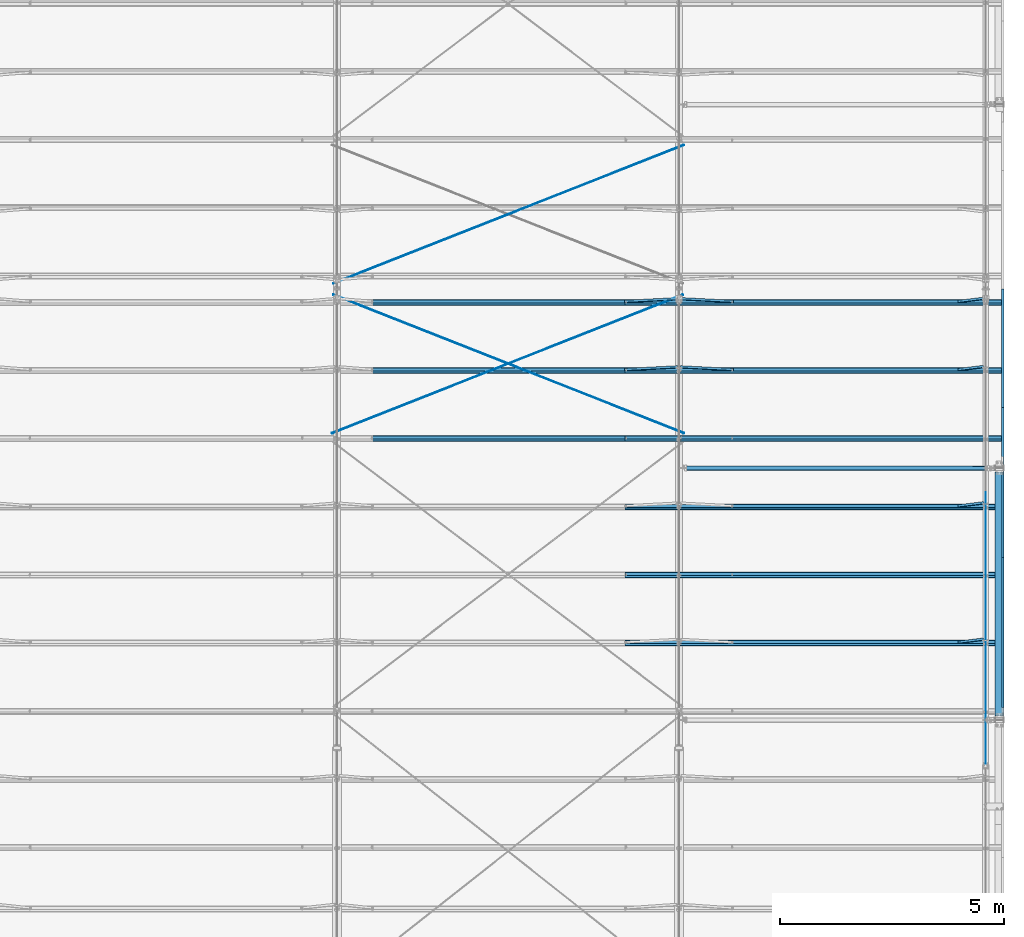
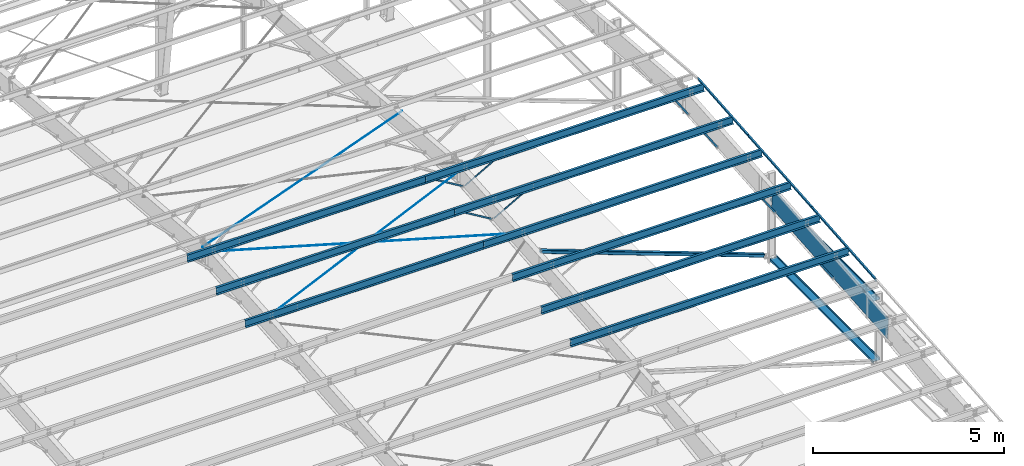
# One storey, part 18 of 185: 18 beams, 9 members, 27 elements without a shape of their own.
"""IFC2X3 building model written with IfcOpenShell, lengths in millimetres."""

from ifc_helpers import new_model, si_unit, frame, origin_with_axes, origin_2d_with_axis, place, context, subcontext, project, spatial, polyline, rectangle, hollow_rectangle, circle, outline, extrude, clip, halfspace, material, type_object, element, aggregate, save


model = new_model("IFC2X3")

# Units and contexts
model_context = context("Model", 3, precision=1e-05, world=origin_with_axes())
body_context = subcontext(model_context, "Body", "Model", "MODEL_VIEW")
ifc_project = project(units=[si_unit("LENGTHUNIT", "METRE", prefix="MILLI"), si_unit("AREAUNIT", "SQUARE_METRE"), si_unit("VOLUMEUNIT", "CUBIC_METRE"), si_unit("MASSUNIT", "GRAM", prefix="KILO"), si_unit("TIMEUNIT", "SECOND"), si_unit("PLANEANGLEUNIT", "RADIAN"), si_unit("SOLIDANGLEUNIT", "STERADIAN"), si_unit("THERMODYNAMICTEMPERATUREUNIT", "DEGREE_CELSIUS"), si_unit("LUMINOUSINTENSITYUNIT", "LUMEN")], contexts=[model_context])

# Site, building, storey
site_placement = place(None, origin_with_axes())
site = spatial("IfcSite", under=ifc_project, at=site_placement, Name="Undefined", CompositionType="ELEMENT")
building_placement = place(site_placement, origin_with_axes())
building = spatial("IfcBuilding", under=site, at=building_placement, Name="Undefined", CompositionType="ELEMENT")
storey_placement = place(building_placement, origin_with_axes())
storey = spatial("IfcBuildingStorey", under=building, at=storey_placement, Name="Undefined", CompositionType="ELEMENT", Elevation=0.0)

# Assembly, beam
assembly_1_placement = place(storey_placement, origin_with_axes())
assembly_1 = element("IfcElementAssembly", 1, at=assembly_1_placement, inside=storey, Name="Steel Assembly", AssemblyPlace="NOTDEFINED", PredefinedType="RIGID_FRAME")
ifc_material = material(Name="STEEL/55")
beam_type_1 = type_object("IfcBeamType", Name="8Z15", PredefinedType="NOTDEFINED")
beam_1_placement = place(assembly_1_placement, frame((30099.0, 12669.2192269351, 7049.81610362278), z_axis=(0.0, 0.0830454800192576, -0.996545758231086), x_axis=(1.0, 0.0, 0.0)))
beam_1 = element("IfcBeam", 2, at=beam_1_placement, type_object=beam_type_1, material=ifc_material, Name="Purlin", ObjectType="8Z15", context=body_context, shape_type="Clipping", body=[
    clip(clip(extrude(outline(polyline([(-75.75, 87.0100021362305), (-63.5, 101.599998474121), (1.5900000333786, 101.599998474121), (1.5900000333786, -98.4199981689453), (62.0200004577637, -98.4199981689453), (73.3099975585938, -84.9700012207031), (75.7399978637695, -87.0100021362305), (63.5, -101.599998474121), (-1.5900000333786, -101.599998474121), (-1.5900000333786, 98.4199981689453), (-62.0200004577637, 98.4199981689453), (-73.3099975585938, 84.9700012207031), (-75.75, 87.0100021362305)])), frame((8826.5, 0.0, 0.0), z_axis=(-1.0, 0.0, 0.0), x_axis=(0.0, -1.0, 0.0)), (0.0, 0.0, 1.0), 9626.6), halfspace(frame((8826.5, 2.91402102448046e-09, -101.600000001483), z_axis=(-1.0, 0.0, 0.0), x_axis=(0.0, 0.0, 1.0)), True)), halfspace(frame((-800.1, 2.91402102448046e-09, -101.600000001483), z_axis=(-1.0, 0.0, 0.0), x_axis=(0.0, 0.0, 1.0)), False)),
])
aggregate(assembly_1, [beam_1])

assembly_2_placement = place(storey_placement, origin_with_axes())
assembly_2 = element("IfcElementAssembly", 3, at=assembly_2_placement, inside=storey, Name="Steel Assembly", AssemblyPlace="NOTDEFINED", PredefinedType="RIGID_FRAME")
beam_2_placement = place(assembly_2_placement, frame((30099.0, 14187.9549624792, 7176.37741517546), z_axis=(0.0, 0.0830454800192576, -0.996545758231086), x_axis=(1.0, 0.0, 0.0)))
beam_2 = element("IfcBeam", 4, at=beam_2_placement, type_object=beam_type_1, material=ifc_material, Name="Purlin", ObjectType="8Z15", context=body_context, shape_type="Clipping", body=[
    clip(clip(extrude(outline(polyline([(-75.75, 87.0100021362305), (-63.5, 101.599998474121), (1.5900000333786, 101.599998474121), (1.5900000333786, -98.4199981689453), (62.0200004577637, -98.4199981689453), (73.3099975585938, -84.9700012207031), (75.7399978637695, -87.0100021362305), (63.5, -101.599998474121), (-1.5900000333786, -101.599998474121), (-1.5900000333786, 98.4199981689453), (-62.0200004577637, 98.4199981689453), (-73.3099975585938, 84.9700012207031), (-75.75, 87.0100021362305)])), frame((8826.5, 0.0, 0.0), z_axis=(-1.0, 0.0, 0.0), x_axis=(0.0, -1.0, 0.0)), (0.0, 0.0, 1.0), 9626.6), halfspace(frame((8826.5, 2.91402102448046e-09, -101.600000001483), z_axis=(-1.0, 0.0, 0.0), x_axis=(0.0, 0.0, 1.0)), True)), halfspace(frame((-800.1, 2.91402102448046e-09, -101.600000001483), z_axis=(-1.0, 0.0, 0.0), x_axis=(0.0, 0.0, 1.0)), False)),
])
aggregate(assembly_2, [beam_2])

assembly_3_placement = place(storey_placement, origin_with_axes())
assembly_3 = element("IfcElementAssembly", 5, at=assembly_3_placement, inside=storey, Name="Steel Assembly", AssemblyPlace="NOTDEFINED", PredefinedType="RIGID_FRAME")
beam_3_placement = place(assembly_3_placement, frame((30099.0, 15706.6906980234, 7302.93872672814), z_axis=(0.0, 0.0830454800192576, -0.996545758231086), x_axis=(1.0, 0.0, 0.0)))
beam_3 = element("IfcBeam", 6, at=beam_3_placement, type_object=beam_type_1, material=ifc_material, Name="Purlin", ObjectType="8Z15", context=body_context, shape_type="Clipping", body=[
    clip(clip(extrude(outline(polyline([(-75.75, 87.0100021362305), (-63.5, 101.599998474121), (1.5900000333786, 101.599998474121), (1.5900000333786, -98.4199981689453), (62.0200004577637, -98.4199981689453), (73.3099975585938, -84.9700012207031), (75.7399978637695, -87.0100021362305), (63.5, -101.599998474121), (-1.5900000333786, -101.599998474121), (-1.5900000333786, 98.4199981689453), (-62.0200004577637, 98.4199981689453), (-73.3099975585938, 84.9700012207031), (-75.75, 87.0100021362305)])), frame((8826.5, 0.0, 0.0), z_axis=(-1.0, 0.0, 0.0), x_axis=(0.0, -1.0, 0.0)), (0.0, 0.0, 1.0), 9626.6), halfspace(frame((8826.5, 2.91402102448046e-09, -101.600000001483), z_axis=(-1.0, 0.0, 0.0), x_axis=(0.0, 0.0, 1.0)), True)), halfspace(frame((-800.1, 2.91402102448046e-09, -101.600000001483), z_axis=(-1.0, 0.0, 0.0), x_axis=(0.0, 0.0, 1.0)), False)),
])
aggregate(assembly_3, [beam_3])

assembly_4_placement = place(storey_placement, origin_with_axes())
assembly_4 = element("IfcElementAssembly", 7, at=assembly_4_placement, inside=storey, Name="Steel Assembly", AssemblyPlace="NOTDEFINED", PredefinedType="RIGID_FRAME")
beam_4_placement = place(assembly_4_placement, frame((44856.4, 6400.7998046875, 4165.6), z_axis=(-1.0, 0.0, 0.0), x_axis=(0.0, 1.0, 0.0)))
beam_4 = element("IfcBeam", 8, at=beam_4_placement, type_object=beam_type_1, material=ifc_material, Name="Girt", ObjectType="8Z15", context=body_context, shape_type="Clipping", body=[
    clip(clip(extrude(outline(polyline([(-75.75, 87.0100021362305), (-63.5, 101.599998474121), (1.5900000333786, 101.599998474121), (1.5900000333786, -98.4199981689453), (62.0200004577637, -98.4199981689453), (73.3099975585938, -84.9700012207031), (75.7399978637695, -87.0100021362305), (63.5, -101.599998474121), (-1.5900000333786, -101.599998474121), (-1.5900000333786, 98.4199981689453), (-62.0200004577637, 98.4199981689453), (-73.3099975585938, 84.9700012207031), (-75.75, 87.0100021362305)])), frame((6400.7998046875, 0.0, 0.0), z_axis=(-1.0, 0.0, 0.0), x_axis=(0.0, -1.0, 0.0)), (0.0, 0.0, 1.0), 6400.8), halfspace(frame((5524.50019531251, -74.5286799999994, -101.599999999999), z_axis=(1.0, 0.0, 0.0), x_axis=(0.0, 0.0, 1.0)), False)), halfspace(frame((88.9001953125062, 74.5286799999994, -101.599999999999), z_axis=(-1.0, 0.0, 0.0), x_axis=(0.0, 0.0, 1.0)), False)),
])
aggregate(assembly_4, [beam_4])

# Assembly, member
assembly_5_placement = place(storey_placement, origin_with_axes())
assembly_5 = element("IfcElementAssembly", 9, at=assembly_5_placement, inside=storey, Name="Steel Assembly", AssemblyPlace="NOTDEFINED", PredefinedType="RIGID_FRAME")
member_type_1 = type_object("IfcMemberType", Name="HSS4X4X1/4", PredefinedType="NOTDEFINED")
member_1_placement = place(assembly_5_placement, frame((44609.1015982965, 12011.046302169, 4286.17118956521), z_axis=(0.345843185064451, -0.000137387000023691, 0.938292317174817), x_axis=(-0.938292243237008, 0.000372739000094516, 0.345843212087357)))
member_1 = element("IfcMember", 10, at=member_1_placement, type_object=member_type_1, material=ifc_material, Name="PIPE", ObjectType="HSS4X4X1/4", context=body_context, shape_type="SweptSolid", body=[
    extrude(hollow_rectangle(XDim=101.6, YDim=101.6, WallThickness=6.35, InnerFilletRadius=6.3499, OuterFilletRadius=12.6999, at=origin_2d_with_axis()), frame((7182.66862782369, 1.81903232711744e-12, 0.0), z_axis=(-1.0, 0.0, 0.0), x_axis=(0.0, -1.0, 0.0)), (0.0, 0.0, 1.0), 7182.7),
])
aggregate(assembly_5, [member_1])

# Assembly, beam
assembly_6_placement = place(storey_placement, origin_with_axes())
assembly_6 = element("IfcElementAssembly", 11, at=assembly_6_placement, inside=storey, Name="Steel Assembly", AssemblyPlace="NOTDEFINED", PredefinedType="RIGID_FRAME")
beam_type_2 = type_object("IfcBeamType", Name="8Z16", PredefinedType="NOTDEFINED")
beam_5_placement = place(assembly_6_placement, frame((44856.4, 6400.7998046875, 6096.0), z_axis=(-1.0, 0.0, 0.0), x_axis=(0.0, 1.0, 0.0)))
beam_5 = element("IfcBeam", 12, at=beam_5_placement, type_object=beam_type_2, material=ifc_material, Name="Girt", ObjectType="8Z16", context=body_context, shape_type="Clipping", body=[
    clip(clip(extrude(outline(polyline([(73.3099975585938, -84.9700012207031), (75.7399978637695, -87.0100021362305), (63.5, -101.599998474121), (-1.5900000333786, -101.599998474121), (-1.5900000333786, 98.4199981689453), (-62.0200004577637, 98.4199981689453), (-73.3099975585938, 84.9700012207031), (-75.75, 87.0100021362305), (-63.5, 101.599998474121), (1.5900000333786, 101.599998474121), (1.5900000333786, -98.4199981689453), (62.0200004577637, -98.4199981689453), (73.3099975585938, -84.9700012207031)])), frame((6400.7998046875, 0.0, 0.0), z_axis=(-1.0, 0.0, 0.0), x_axis=(0.0, -1.0, 0.0)), (0.0, 0.0, 1.0), 6400.8), halfspace(frame((5524.50019531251, -74.5286799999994, -101.599999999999), z_axis=(1.0, 0.0, 0.0), x_axis=(0.0, 0.0, 1.0)), False)), halfspace(frame((88.9001953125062, 74.5286799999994, -101.599999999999), z_axis=(-1.0, 0.0, 0.0), x_axis=(0.0, 0.0, 1.0)), False)),
])
aggregate(assembly_6, [beam_5])

# Assembly, member
assembly_7_placement = place(storey_placement, origin_with_axes())
assembly_7 = element("IfcElementAssembly", 13, at=assembly_7_placement, inside=storey, Name="Steel Assembly", AssemblyPlace="NOTDEFINED", PredefinedType="RIGID_FRAME")
member_type_2 = type_object("IfcMemberType", Name="FB-", PredefinedType="NOTDEFINED")
member_2_placement = place(assembly_7_placement, frame((37680.9126795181, 15764.30996008, 6611.50758167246), z_axis=(0.530152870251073, -0.070414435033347, 0.844973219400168), x_axis=(-0.847902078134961, -0.0440268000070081, 0.528321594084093)))
member_2 = element("IfcMember", 14, at=member_2_placement, type_object=member_type_2, material=ifc_material, Name="2X2 FLANGE BRACE X 48", ObjectType="FB-", context=body_context, shape_type="SweptSolid", body=[
    extrude(outline(polyline([(1.5900000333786, 1.59000003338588), (50.7999992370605, 1.59000003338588), (50.7999992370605, 7.27595761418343e-12), (0.0, 0.0), (0.0, 50.7999992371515), (1.5900000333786, 50.7999992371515), (1.5900000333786, 1.59000003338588)])), frame((1389.32938756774, -1.81898940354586e-12, 7.71232737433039e-14), z_axis=(-1.0, 0.0, 0.0), x_axis=(0.0, -1.0, 0.0)), (0.0, 0.0, 1.0), 1389.3),
])
aggregate(assembly_7, [member_2])

assembly_8_placement = place(storey_placement, origin_with_axes())
assembly_8 = element("IfcElementAssembly", 15, at=assembly_8_placement, inside=storey, Name="Steel Assembly", AssemblyPlace="NOTDEFINED", PredefinedType="RIGID_FRAME")
member_3_placement = place(assembly_8_placement, frame((37680.9126795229, 14245.5742245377, 6484.94627033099), z_axis=(0.530152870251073, -0.070414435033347, 0.844973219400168), x_axis=(-0.847902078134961, -0.0440268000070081, 0.528321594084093)))
member_3 = element("IfcMember", 16, at=member_3_placement, type_object=member_type_2, material=ifc_material, Name="2X2 FLANGE BRACE X 48", ObjectType="FB-", context=body_context, shape_type="SweptSolid", body=[
    extrude(outline(polyline([(1.5900000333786, 1.59000003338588), (50.7999992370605, 1.59000003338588), (50.7999992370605, 7.27595761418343e-12), (0.0, 0.0), (0.0, 50.7999992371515), (1.5900000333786, 50.7999992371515), (1.5900000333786, 1.59000003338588)])), frame((1389.32938756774, -1.81898940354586e-12, 7.71232737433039e-14), z_axis=(-1.0, 0.0, 0.0), x_axis=(0.0, -1.0, 0.0)), (0.0, 0.0, 1.0), 1389.3),
])
aggregate(assembly_8, [member_3])

assembly_9_placement = place(storey_placement, origin_with_axes())
assembly_9 = element("IfcElementAssembly", 17, at=assembly_9_placement, inside=storey, Name="Steel Assembly", AssemblyPlace="NOTDEFINED", PredefinedType="RIGID_FRAME")
member_4_placement = place(assembly_9_placement, frame((44498.3456661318, 15772.6319752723, 6511.64339953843), z_axis=(0.832860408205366, -0.0459642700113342, 0.551571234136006), x_axis=(-0.553483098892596, -0.0691652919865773, 0.829983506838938)))
member_4 = element("IfcMember", 18, at=member_4_placement, type_object=member_type_2, material=ifc_material, Name="2X2 FLANGE BRACE X 48", ObjectType="FB-", context=body_context, shape_type="SweptSolid", body=[
    extrude(outline(polyline([(1.5900000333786, 1.59000003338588), (50.7999992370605, 1.59000003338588), (50.7999992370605, 7.27595761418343e-12), (0.0, 0.0), (0.0, 50.7999992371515), (1.5900000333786, 50.7999992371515), (1.5900000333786, 1.59000003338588)])), frame((1022.90167929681, -5.11529800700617e-13, 1.83318501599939e-12), z_axis=(-1.0, 0.0, 0.0), x_axis=(0.0, -1.0, 0.0)), (0.0, 0.0, 1.0), 1022.9),
])
aggregate(assembly_9, [member_4])

assembly_10_placement = place(storey_placement, origin_with_axes())
assembly_10 = element("IfcElementAssembly", 19, at=assembly_10_placement, inside=storey, Name="Steel Assembly", AssemblyPlace="NOTDEFINED", PredefinedType="RIGID_FRAME")
member_5_placement = place(assembly_10_placement, frame((44498.3456661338, 14253.8962397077, 6385.08208823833), z_axis=(0.832860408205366, -0.0459642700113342, 0.551571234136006), x_axis=(-0.553483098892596, -0.0691652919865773, 0.829983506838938)))
member_5 = element("IfcMember", 20, at=member_5_placement, type_object=member_type_2, material=ifc_material, Name="2X2 FLANGE BRACE X 48", ObjectType="FB-", context=body_context, shape_type="SweptSolid", body=[
    extrude(outline(polyline([(1.5900000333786, 1.59000003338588), (50.7999992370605, 1.59000003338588), (50.7999992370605, 7.27595761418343e-12), (0.0, 0.0), (0.0, 50.7999992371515), (1.5900000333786, 50.7999992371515), (1.5900000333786, 1.59000003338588)])), frame((1022.90167929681, -5.11529800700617e-13, 1.83318501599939e-12), z_axis=(-1.0, 0.0, 0.0), x_axis=(0.0, -1.0, 0.0)), (0.0, 0.0, 1.0), 1022.9),
])
aggregate(assembly_10, [member_5])

assembly_11_placement = place(storey_placement, origin_with_axes())
assembly_11 = element("IfcElementAssembly", 21, at=assembly_11_placement, inside=storey, Name="Steel Assembly", AssemblyPlace="NOTDEFINED", PredefinedType="RIGID_FRAME")
member_6_placement = place(assembly_11_placement, frame((44498.3456661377, 11216.4247685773, 6131.95946563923), z_axis=(0.832860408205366, -0.0459642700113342, 0.551571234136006), x_axis=(-0.553483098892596, -0.0691652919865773, 0.829983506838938)))
member_6 = element("IfcMember", 22, at=member_6_placement, type_object=member_type_2, material=ifc_material, Name="2X2 FLANGE BRACE X 48", ObjectType="FB-", context=body_context, shape_type="SweptSolid", body=[
    extrude(outline(polyline([(1.5900000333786, 1.59000003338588), (50.7999992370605, 1.59000003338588), (50.7999992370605, 7.27595761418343e-12), (0.0, 0.0), (0.0, 50.7999992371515), (1.5900000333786, 50.7999992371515), (1.5900000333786, 1.59000003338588)])), frame((1022.90167929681, -5.11529800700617e-13, 1.83318501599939e-12), z_axis=(-1.0, 0.0, 0.0), x_axis=(0.0, -1.0, 0.0)), (0.0, 0.0, 1.0), 1022.9),
])
aggregate(assembly_11, [member_6])

assembly_12_placement = place(storey_placement, origin_with_axes())
assembly_12 = element("IfcElementAssembly", 23, at=assembly_12_placement, inside=storey, Name="Steel Assembly", AssemblyPlace="NOTDEFINED", PredefinedType="RIGID_FRAME")
member_7_placement = place(assembly_12_placement, frame((44498.3456661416, 8178.95329744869, 5878.83684303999), z_axis=(0.832860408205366, -0.0459642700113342, 0.551571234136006), x_axis=(-0.553483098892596, -0.0691652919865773, 0.829983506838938)))
member_7 = element("IfcMember", 24, at=member_7_placement, type_object=member_type_2, material=ifc_material, Name="2X2 FLANGE BRACE X 48", ObjectType="FB-", context=body_context, shape_type="SweptSolid", body=[
    extrude(outline(polyline([(1.5900000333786, 1.59000003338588), (50.7999992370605, 1.59000003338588), (50.7999992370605, 7.27595761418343e-12), (0.0, 0.0), (0.0, 50.7999992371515), (1.5900000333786, 50.7999992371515), (1.5900000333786, 1.59000003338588)])), frame((1022.90167929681, -5.11529800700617e-13, 1.83318501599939e-12), z_axis=(-1.0, 0.0, 0.0), x_axis=(0.0, -1.0, 0.0)), (0.0, 0.0, 1.0), 1022.9),
])
aggregate(assembly_12, [member_7])

assembly_13_placement = place(storey_placement, origin_with_axes())
assembly_13 = element("IfcElementAssembly", 25, at=assembly_13_placement, inside=storey, Name="Steel Assembly", AssemblyPlace="NOTDEFINED", PredefinedType="RIGID_FRAME")
member_8_placement = place(assembly_13_placement, frame((37757.0873204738, 15764.3099601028, 6611.50758165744), z_axis=(0.0, 0.996545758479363, 0.0830454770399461), x_axis=(0.847902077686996, -0.044026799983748, 0.528321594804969)))
member_8 = element("IfcMember", 26, at=member_8_placement, type_object=member_type_2, material=ifc_material, Name="2X2 FLANGE BRACE X 48", ObjectType="FB-", context=body_context, shape_type="SweptSolid", body=[
    extrude(outline(polyline([(1.5900000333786, 1.59000003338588), (50.7999992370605, 1.59000003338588), (50.7999992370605, 7.27595761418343e-12), (0.0, 0.0), (0.0, 50.7999992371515), (1.5900000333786, 50.7999992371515), (1.5900000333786, 1.59000003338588)])), frame((1389.32938756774, -1.81898940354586e-12, 7.71232737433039e-14), z_axis=(-1.0, 0.0, 0.0), x_axis=(0.0, -1.0, 0.0)), (0.0, 0.0, 1.0), 1389.3),
])
aggregate(assembly_13, [member_8])

assembly_14_placement = place(storey_placement, origin_with_axes())
assembly_14 = element("IfcElementAssembly", 27, at=assembly_14_placement, inside=storey, Name="Steel Assembly", AssemblyPlace="NOTDEFINED", PredefinedType="RIGID_FRAME")
member_9_placement = place(assembly_14_placement, frame((37757.0873204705, 14245.5742245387, 6484.94627035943), z_axis=(0.0, 0.996545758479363, 0.0830454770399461), x_axis=(0.847902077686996, -0.044026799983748, 0.528321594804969)))
member_9 = element("IfcMember", 28, at=member_9_placement, type_object=member_type_2, material=ifc_material, Name="2X2 FLANGE BRACE X 48", ObjectType="FB-", context=body_context, shape_type="SweptSolid", body=[
    extrude(outline(polyline([(1.5900000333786, 1.59000003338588), (50.7999992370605, 1.59000003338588), (50.7999992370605, 7.27595761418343e-12), (0.0, 0.0), (0.0, 50.7999992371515), (1.5900000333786, 50.7999992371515), (1.5900000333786, 1.59000003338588)])), frame((1389.32938756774, -1.81898940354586e-12, 7.71232737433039e-14), z_axis=(-1.0, 0.0, 0.0), x_axis=(0.0, -1.0, 0.0)), (0.0, 0.0, 1.0), 1389.3),
])
aggregate(assembly_14, [member_9])

# Assembly, beam
assembly_15_placement = place(storey_placement, origin_with_axes())
assembly_15 = element("IfcElementAssembly", 29, at=assembly_15_placement, inside=storey, Name="Steel Assembly", AssemblyPlace="NOTDEFINED", PredefinedType="RIGID_FRAME")
beam_type_3 = type_object("IfcBeamType", Name="RA-1", PredefinedType="NOTDEFINED")
beam_6_placement = place(assembly_15_placement, frame((44958.0, 13364.912868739, 7209.27885903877), z_axis=(0.0, 0.0830701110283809, -0.99654370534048), x_axis=(0.0, 0.99654370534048, 0.0830701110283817)))
beam_6 = element("IfcBeam", 30, at=beam_6_placement, type_object=beam_type_3, material=ifc_material, Name="STANDARD RAKE ANGLE", ObjectType="RA-1", context=body_context, shape_type="SweptSolid", body=[
    extrude(outline(polyline([(0.0, 0.0), (50.7999992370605, 7.27595761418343e-12), (50.7999992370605, -1.51999998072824), (-1.51999998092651, -1.51999998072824), (-1.51999998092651, 127.000000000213), (0.0, 127.000000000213), (0.0, 0.0)])), frame((2646.26680182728, 0.0, 0.0), z_axis=(-1.0, 0.0, 0.0), x_axis=(0.0, -1.0, 0.0)), (0.0, 0.0, 1.0), 2646.3),
])
aggregate(assembly_15, [beam_6])

assembly_16_placement = place(storey_placement, origin_with_axes())
assembly_16 = element("IfcElementAssembly", 31, at=assembly_16_placement, inside=storey, Name="Steel Assembly", AssemblyPlace="NOTDEFINED", PredefinedType="RIGID_FRAME")
beam_7_placement = place(assembly_16_placement, frame((44958.0, 10023.7011333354, 6930.76139243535), z_axis=(0.0, 0.0830701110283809, -0.99654370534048), x_axis=(0.0, 0.99654370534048, 0.0830701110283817)))
beam_7 = element("IfcBeam", 32, at=beam_7_placement, type_object=beam_type_3, material=ifc_material, Name="STANDARD RAKE ANGLE", ObjectType="RA-1", context=body_context, shape_type="SweptSolid", body=[
    extrude(outline(polyline([(0.0, 0.0), (50.7999992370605, 7.27595761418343e-12), (50.7999992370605, -1.51999998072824), (-1.51999998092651, -1.51999998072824), (-1.51999998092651, 127.000000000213), (0.0, 127.000000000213), (0.0, 0.0)])), frame((3352.80000002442, 0.0, -1.86551885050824e-12), z_axis=(-1.0, 0.0, 0.0), x_axis=(0.0, -1.0, 0.0)), (0.0, 0.0, 1.0), 3352.8),
])
aggregate(assembly_16, [beam_7])

assembly_17_placement = place(storey_placement, origin_with_axes())
assembly_17 = element("IfcElementAssembly", 33, at=assembly_17_placement, inside=storey, Name="Steel Assembly", AssemblyPlace="NOTDEFINED", PredefinedType="RIGID_FRAME")
beam_8_placement = place(assembly_17_placement, frame((44958.0, 6682.48939793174, 6652.24392583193), z_axis=(0.0, 0.0830701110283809, -0.99654370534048), x_axis=(0.0, 0.99654370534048, 0.0830701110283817)))
beam_8 = element("IfcBeam", 34, at=beam_8_placement, type_object=beam_type_3, material=ifc_material, Name="STANDARD RAKE ANGLE", ObjectType="RA-1", context=body_context, shape_type="SweptSolid", body=[
    extrude(outline(polyline([(0.0, 0.0), (50.7999992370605, 7.27595761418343e-12), (50.7999992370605, -1.51999998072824), (-1.51999998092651, -1.51999998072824), (-1.51999998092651, 127.000000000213), (0.0, 127.000000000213), (0.0, 0.0)])), frame((3352.80000002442, 0.0, -1.86551885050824e-12), z_axis=(-1.0, 0.0, 0.0), x_axis=(0.0, -1.0, 0.0)), (0.0, 0.0, 1.0), 3352.8),
])
aggregate(assembly_17, [beam_8])

assembly_18_placement = place(storey_placement, origin_with_axes())
assembly_18 = element("IfcElementAssembly", 35, at=assembly_18_placement, inside=storey, Name="Steel Assembly", AssemblyPlace="NOTDEFINED", PredefinedType="RIGID_FRAME")
beam_type_4 = type_object("IfcBeamType", Name="RB3/4\"", PredefinedType="NOTDEFINED")
beam_9_placement = place(assembly_18_placement, frame((37829.6980639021, 19213.282930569, 6899.03491774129), z_axis=(0.0157150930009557, 0.0434242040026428, 0.998933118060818), x_axis=(-0.929747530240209, -0.366925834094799, 0.0305771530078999)))
beam_9 = element("IfcBeam", 36, at=beam_9_placement, type_object=beam_type_4, material=ifc_material, Name="ROD BRACE - 3/4", ObjectType="RB3/4\"", context=body_context, shape_type="SweptSolid", body=[
    extrude(circle(Radius=9.525, at=origin_2d_with_axis()), frame((8406.91081267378, 5.39498763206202e-12, -9.09494701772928e-13), z_axis=(-1.0, 0.0, 0.0), x_axis=(0.0, -1.0, 0.0)), (0.0, 0.0, 1.0), 8406.9),
])
aggregate(assembly_18, [beam_9])

assembly_19_placement = place(storey_placement, origin_with_axes())
assembly_19 = element("IfcElementAssembly", 37, at=assembly_19_placement, inside=storey, Name="Steel Assembly", AssemblyPlace="NOTDEFINED", PredefinedType="RIGID_FRAME")
beam_10_placement = place(assembly_19_placement, frame((29988.3021082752, 12790.6821353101, 6899.03200658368), z_axis=(-0.0158745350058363, -0.0430218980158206, 0.998948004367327), x_axis=(0.929746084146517, 0.366929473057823, 0.0305774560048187)))
beam_10 = element("IfcBeam", 38, at=beam_10_placement, type_object=beam_type_4, material=ifc_material, Name="ROD BRACE - 3/4", ObjectType="RB3/4\"", context=body_context, shape_type="SweptSolid", body=[
    extrude(circle(Radius=9.525, at=origin_2d_with_axis()), frame((8406.92355992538, -2.11149322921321e-12, 5.83347506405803e-14), z_axis=(-1.0, 0.0, 0.0), x_axis=(0.0, -1.0, 0.0)), (0.0, 0.0, 1.0), 8406.9),
])
aggregate(assembly_19, [beam_10])

assembly_20_placement = place(storey_placement, origin_with_axes())
assembly_20 = element("IfcElementAssembly", 39, at=assembly_20_placement, inside=storey, Name="Steel Assembly", AssemblyPlace="NOTDEFINED", PredefinedType="RIGID_FRAME")
beam_11_placement = place(assembly_20_placement, frame((37829.6978917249, 12790.6821353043, 6899.03200659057), z_axis=(0.0157150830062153, -0.0434246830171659, 0.998933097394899), x_axis=(-0.929746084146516, 0.366929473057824, 0.0305774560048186)))
beam_11 = element("IfcBeam", 40, at=beam_11_placement, type_object=beam_type_4, material=ifc_material, Name="ROD BRACE - 3/4", ObjectType="RB3/4\"", context=body_context, shape_type="SweptSolid", body=[
    extrude(circle(Radius=9.525, at=origin_2d_with_axis()), frame((8406.92355992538, -2.11149322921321e-12, 5.83347506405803e-14), z_axis=(-1.0, 0.0, 0.0), x_axis=(0.0, -1.0, 0.0)), (0.0, 0.0, 1.0), 8406.9),
])
aggregate(assembly_20, [beam_11])

assembly_21_placement = place(storey_placement, origin_with_axes())
assembly_21 = element("IfcElementAssembly", 41, at=assembly_21_placement, inside=storey, Name="Steel Assembly", AssemblyPlace="NOTDEFINED", PredefinedType="RIGID_FRAME")
beam_type_5 = type_object("IfcBeamType", Name="8Z13", PredefinedType="NOTDEFINED")
beam_12_placement = place(assembly_21_placement, frame((37719.0, 8113.01202030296, 6670.13216896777), z_axis=(0.0, 0.0830454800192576, -0.996545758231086), x_axis=(1.0, 0.0, 0.0)))
beam_12 = element("IfcBeam", 42, at=beam_12_placement, type_object=beam_type_5, material=ifc_material, Name="Purlin", ObjectType="8Z13", context=body_context, shape_type="Clipping", body=[
    clip(clip(extrude(outline(polyline([(-62.0200004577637, 98.4199981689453), (-73.3099975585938, 84.9700012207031), (-75.75, 87.0100021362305), (-63.5, 101.599998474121), (1.5900000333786, 101.599998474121), (1.5900000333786, -98.4199981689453), (62.0200004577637, -98.4199981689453), (73.3099975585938, -84.9700012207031), (75.7399978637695, -87.0100021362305), (63.5, -101.599998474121), (-1.5900000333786, -101.599998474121), (-1.5900000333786, 98.4199981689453), (-62.0200004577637, 98.4199981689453)])), frame((7226.3, 0.0, 0.0), z_axis=(-1.0, 0.0, 0.0), x_axis=(0.0, -1.0, 0.0)), (0.0, 0.0, 1.0), 8432.8), halfspace(frame((7226.3, 2.91402102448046e-09, -101.600000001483), z_axis=(-1.0, 0.0, 0.0), x_axis=(0.0, 0.0, -1.0)), True)), halfspace(frame((-1206.5, 2.91402102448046e-09, -101.600000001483), z_axis=(-1.0, 0.0, 0.0), x_axis=(0.0, 0.0, 1.0)), False)),
])
aggregate(assembly_21, [beam_12])

assembly_22_placement = place(storey_placement, origin_with_axes())
assembly_22 = element("IfcElementAssembly", 43, at=assembly_22_placement, inside=storey, Name="Steel Assembly", AssemblyPlace="NOTDEFINED", PredefinedType="RIGID_FRAME")
beam_13_placement = place(assembly_22_placement, frame((37719.0, 9631.74775584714, 6796.69348052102), z_axis=(0.0, 0.0830454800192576, -0.996545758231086), x_axis=(1.0, 0.0, 0.0)))
beam_13 = element("IfcBeam", 44, at=beam_13_placement, type_object=beam_type_5, material=ifc_material, Name="Purlin", ObjectType="8Z13", context=body_context, shape_type="Clipping", body=[
    clip(clip(extrude(outline(polyline([(-62.0200004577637, 98.4199981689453), (-73.3099975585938, 84.9700012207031), (-75.75, 87.0100021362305), (-63.5, 101.599998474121), (1.5900000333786, 101.599998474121), (1.5900000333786, -98.4199981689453), (62.0200004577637, -98.4199981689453), (73.3099975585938, -84.9700012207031), (75.7399978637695, -87.0100021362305), (63.5, -101.599998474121), (-1.5900000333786, -101.599998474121), (-1.5900000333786, 98.4199981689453), (-62.0200004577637, 98.4199981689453)])), frame((7226.3, 0.0, 0.0), z_axis=(-1.0, 0.0, 0.0), x_axis=(0.0, -1.0, 0.0)), (0.0, 0.0, 1.0), 8432.8), halfspace(frame((7226.3, 2.91402102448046e-09, -101.600000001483), z_axis=(-1.0, 0.0, 0.0), x_axis=(0.0, 0.0, -1.0)), True)), halfspace(frame((-1206.5, 2.91402102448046e-09, -101.600000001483), z_axis=(-1.0, 0.0, 0.0), x_axis=(0.0, 0.0, 1.0)), False)),
])
aggregate(assembly_22, [beam_13])

assembly_23_placement = place(storey_placement, origin_with_axes())
assembly_23 = element("IfcElementAssembly", 45, at=assembly_23_placement, inside=storey, Name="Steel Assembly", AssemblyPlace="NOTDEFINED", PredefinedType="RIGID_FRAME")
beam_14_placement = place(assembly_23_placement, frame((37719.0, 11150.4834913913, 6923.25479207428), z_axis=(0.0, 0.0830454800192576, -0.996545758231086), x_axis=(1.0, 0.0, 0.0)))
beam_14 = element("IfcBeam", 46, at=beam_14_placement, type_object=beam_type_5, material=ifc_material, Name="Purlin", ObjectType="8Z13", context=body_context, shape_type="Clipping", body=[
    clip(clip(extrude(outline(polyline([(-62.0200004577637, 98.4199981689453), (-73.3099975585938, 84.9700012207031), (-75.75, 87.0100021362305), (-63.5, 101.599998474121), (1.5900000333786, 101.599998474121), (1.5900000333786, -98.4199981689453), (62.0200004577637, -98.4199981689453), (73.3099975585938, -84.9700012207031), (75.7399978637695, -87.0100021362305), (63.5, -101.599998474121), (-1.5900000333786, -101.599998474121), (-1.5900000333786, 98.4199981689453), (-62.0200004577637, 98.4199981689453)])), frame((7226.3, 0.0, 0.0), z_axis=(-1.0, 0.0, 0.0), x_axis=(0.0, -1.0, 0.0)), (0.0, 0.0, 1.0), 8432.8), halfspace(frame((7226.3, 2.91402102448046e-09, -101.600000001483), z_axis=(-1.0, 0.0, 0.0), x_axis=(0.0, 0.0, -1.0)), True)), halfspace(frame((-1206.5, 2.91402102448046e-09, -101.600000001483), z_axis=(-1.0, 0.0, 0.0), x_axis=(0.0, 0.0, 1.0)), False)),
])
aggregate(assembly_23, [beam_14])

assembly_24_placement = place(storey_placement, origin_with_axes())
assembly_24 = element("IfcElementAssembly", 47, at=assembly_24_placement, inside=storey, Name="Steel Assembly", AssemblyPlace="NOTDEFINED", PredefinedType="RIGID_FRAME")
beam_15_placement = place(assembly_24_placement, frame((37719.0, 12669.2192269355, 7049.81610362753), z_axis=(0.0, 0.0830454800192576, -0.996545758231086), x_axis=(1.0, 0.0, 0.0)))
beam_15 = element("IfcBeam", 48, at=beam_15_placement, type_object=beam_type_5, material=ifc_material, Name="Purlin", ObjectType="8Z13", context=body_context, shape_type="Clipping", body=[
    clip(clip(extrude(outline(polyline([(-62.0200004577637, 98.4199981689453), (-73.3099975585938, 84.9700012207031), (-75.75, 87.0100021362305), (-63.5, 101.599998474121), (1.5900000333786, 101.599998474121), (1.5900000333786, -98.4199981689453), (62.0200004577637, -98.4199981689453), (73.3099975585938, -84.9700012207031), (75.7399978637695, -87.0100021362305), (63.5, -101.599998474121), (-1.5900000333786, -101.599998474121), (-1.5900000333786, 98.4199981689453), (-62.0200004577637, 98.4199981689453)])), frame((7226.3, 0.0, 0.0), z_axis=(-1.0, 0.0, 0.0), x_axis=(0.0, -1.0, 0.0)), (0.0, 0.0, 1.0), 8432.8), halfspace(frame((7226.3, 2.91402102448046e-09, -101.600000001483), z_axis=(-1.0, 0.0, 0.0), x_axis=(0.0, 0.0, -1.0)), True)), halfspace(frame((-1206.5, 2.91402102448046e-09, -101.600000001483), z_axis=(-1.0, 0.0, 0.0), x_axis=(0.0, 0.0, 1.0)), False)),
])
aggregate(assembly_24, [beam_15])

assembly_25_placement = place(storey_placement, origin_with_axes())
assembly_25 = element("IfcElementAssembly", 49, at=assembly_25_placement, inside=storey, Name="Steel Assembly", AssemblyPlace="NOTDEFINED", PredefinedType="RIGID_FRAME")
beam_16_placement = place(assembly_25_placement, frame((37719.0, 14187.9549624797, 7176.37741518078), z_axis=(0.0, 0.0830454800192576, -0.996545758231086), x_axis=(1.0, 0.0, 0.0)))
beam_16 = element("IfcBeam", 50, at=beam_16_placement, type_object=beam_type_5, material=ifc_material, Name="Purlin", ObjectType="8Z13", context=body_context, shape_type="Clipping", body=[
    clip(clip(extrude(outline(polyline([(-62.0200004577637, 98.4199981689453), (-73.3099975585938, 84.9700012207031), (-75.75, 87.0100021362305), (-63.5, 101.599998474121), (1.5900000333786, 101.599998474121), (1.5900000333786, -98.4199981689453), (62.0200004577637, -98.4199981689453), (73.3099975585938, -84.9700012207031), (75.7399978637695, -87.0100021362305), (63.5, -101.599998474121), (-1.5900000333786, -101.599998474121), (-1.5900000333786, 98.4199981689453), (-62.0200004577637, 98.4199981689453)])), frame((7226.3, 0.0, 0.0), z_axis=(-1.0, 0.0, 0.0), x_axis=(0.0, -1.0, 0.0)), (0.0, 0.0, 1.0), 8432.8), halfspace(frame((7226.3, 2.91402102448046e-09, -101.600000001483), z_axis=(-1.0, 0.0, 0.0), x_axis=(0.0, 0.0, -1.0)), True)), halfspace(frame((-1206.5, 2.91402102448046e-09, -101.600000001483), z_axis=(-1.0, 0.0, 0.0), x_axis=(0.0, 0.0, 1.0)), False)),
])
aggregate(assembly_25, [beam_16])

assembly_26_placement = place(storey_placement, origin_with_axes())
assembly_26 = element("IfcElementAssembly", 51, at=assembly_26_placement, inside=storey, Name="Steel Assembly", AssemblyPlace="NOTDEFINED", PredefinedType="RIGID_FRAME")
beam_17_placement = place(assembly_26_placement, frame((37719.0, 15706.6906980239, 7302.93872673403), z_axis=(0.0, 0.0830454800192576, -0.996545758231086), x_axis=(1.0, 0.0, 0.0)))
beam_17 = element("IfcBeam", 52, at=beam_17_placement, type_object=beam_type_5, material=ifc_material, Name="Purlin", ObjectType="8Z13", context=body_context, shape_type="Clipping", body=[
    clip(clip(extrude(outline(polyline([(-62.0200004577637, 98.4199981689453), (-73.3099975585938, 84.9700012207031), (-75.75, 87.0100021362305), (-63.5, 101.599998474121), (1.5900000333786, 101.599998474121), (1.5900000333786, -98.4199981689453), (62.0200004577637, -98.4199981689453), (73.3099975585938, -84.9700012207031), (75.7399978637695, -87.0100021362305), (63.5, -101.599998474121), (-1.5900000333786, -101.599998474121), (-1.5900000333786, 98.4199981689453), (-62.0200004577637, 98.4199981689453)])), frame((7226.3, 0.0, 0.0), z_axis=(-1.0, 0.0, 0.0), x_axis=(0.0, -1.0, 0.0)), (0.0, 0.0, 1.0), 8432.8), halfspace(frame((7226.3, 2.91402102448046e-09, -101.600000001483), z_axis=(-1.0, 0.0, 0.0), x_axis=(0.0, 0.0, -1.0)), True)), halfspace(frame((-1206.5, 2.91402102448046e-09, -101.600000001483), z_axis=(-1.0, 0.0, 0.0), x_axis=(0.0, 0.0, 1.0)), False)),
])
aggregate(assembly_26, [beam_17])

assembly_27_placement = place(storey_placement, origin_with_axes())
assembly_27 = element("IfcElementAssembly", 53, at=assembly_27_placement, inside=storey, Name="Steel Assembly", AssemblyPlace="NOTDEFINED", PredefinedType="RIGID_FRAME")
beam_type_6 = type_object("IfcBeamType", Name="PL1/8\"X28\"", PredefinedType="NOTDEFINED")
beam_18_placement = place(assembly_27_placement, frame((44551.6, 5373.02307074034, 5976.64299177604), z_axis=(0.0, -0.0830454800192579, 0.996545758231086), x_axis=(0.0, 0.996545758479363, 0.0830454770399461)))
beam_18 = element("IfcBeam", 54, at=beam_18_placement, type_object=beam_type_6, material=ifc_material, Name="Web", ObjectType="PL1/8\"X28\"", context=body_context, shape_type="Clipping", body=[
    clip(extrude(rectangle(XDim=3.4163, YDim=711.19999999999, at=origin_2d_with_axis()), frame((6095.99999991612, 0.0, -8.45989944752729e-14), z_axis=(-1.0, 0.0, 0.0), x_axis=(0.0, -1.0, 0.0)), (0.0, 0.0, 1.0), 6096.0), halfspace(frame((3.82096914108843e-08, 0.0, 355.599999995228), z_axis=(-1.0, 0.0, 0.0), x_axis=(0.0, -1.0, 0.0)), False)),
])
aggregate(assembly_27, [beam_18])

save(model, "model.ifc")
